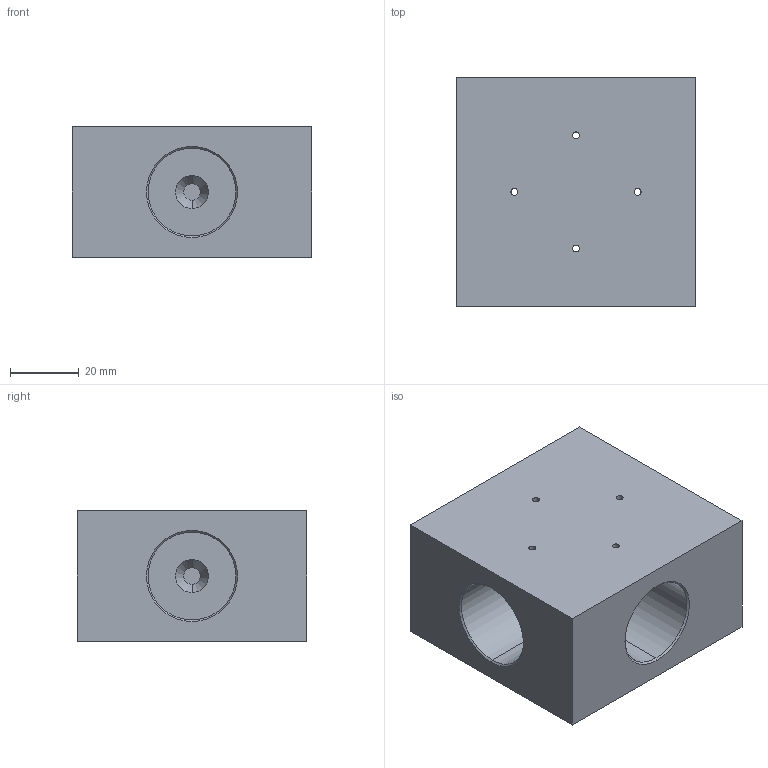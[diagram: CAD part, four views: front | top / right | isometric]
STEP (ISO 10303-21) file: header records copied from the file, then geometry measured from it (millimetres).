
FILE_DESCRIPTION (( 'STEP AP203' ), '1' );
FILE_NAME ('FT100CS09.STEP', '2026-06-26T00:51:27', ( 'USER' ), ( '' ), 'SwSTEP 2.0', 'SolidWorks 2023', '' );
FILE_SCHEMA (( 'CONFIG_CONTROL_DESIGN' ));
Length unit declared in the file: millimetre
Products named in the file (1): FT100CS09
Bounding box: 70 x 67 x 38 mm (x, y, z)
Volume: 137821.4 mm3; surface area: 26639.9 mm2
Topology: 1 solids, 1 shells, 62 faces, 156 edges, 96 vertices
Faces by surface type: cylinder 32, cone 16, plane 14
Entity records: 2177 total; most frequent: CARTESIAN_POINT 579, DIRECTION 322, ORIENTED_EDGE 312, EDGE_CURVE 156, AXIS2_PLACEMENT_3D 127, VERTEX_POINT 96, EDGE_LOOP 78, LINE 68
